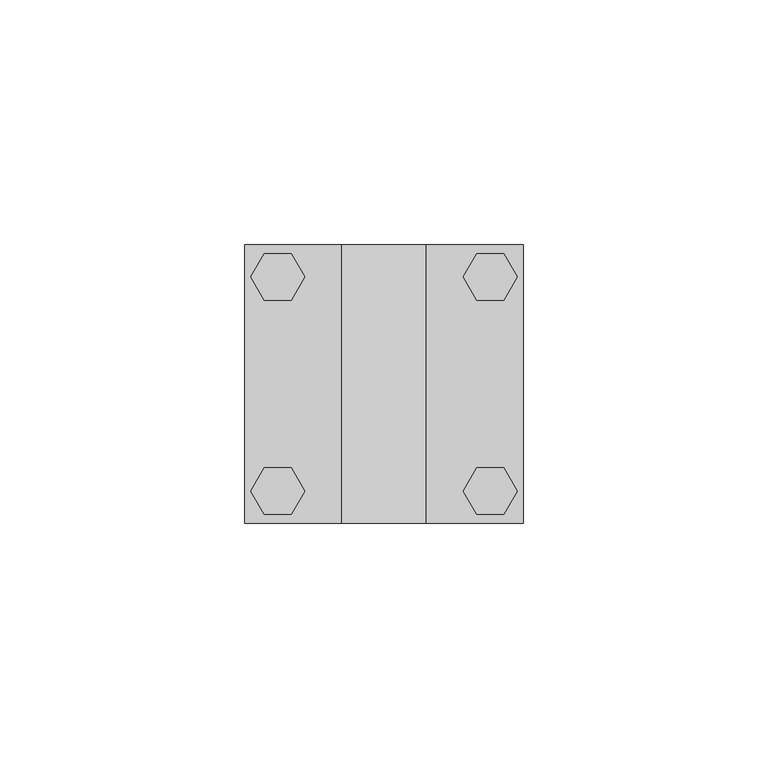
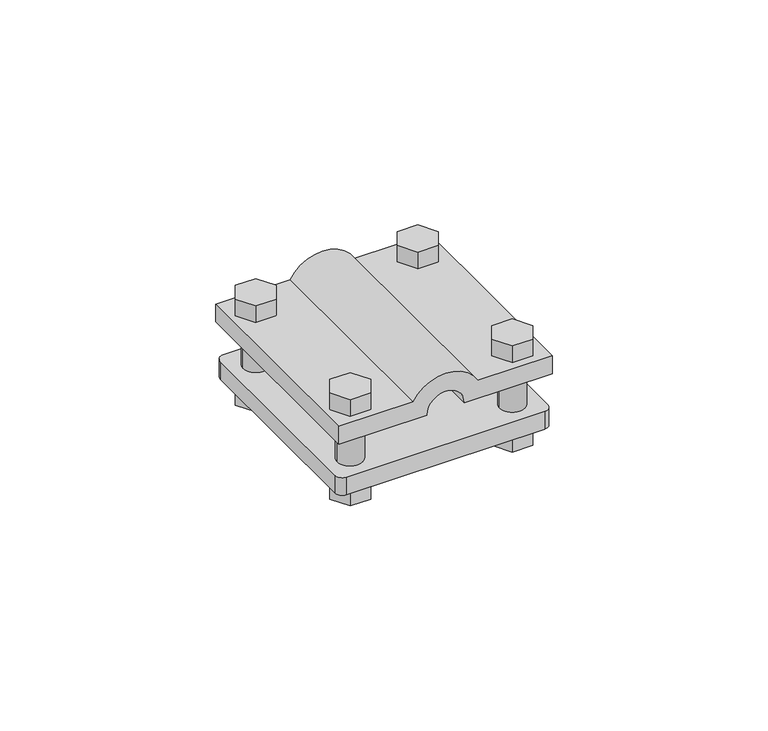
"""IFC4 building model written with IfcOpenShell, lengths in millimetres: proxy geometry, КНС_СоединительПрутокПолоса_DKC : NG3102CU_Медь_57х57 мм."""

from ifc_helpers import new_model, si_unit, point, frame, frame_2d, origin, place, context, project, spatial, polyline, circle_curve, trimmed, segment, composite_curve, outline, extrude, source, transform, mapped, element, save


def security_devices_d88ed466(model_context):
    return source(origin(), model_context, "Body", "SweptSolid", [
        extrude(outline(composite_curve([segment(polyline([(10.0, -28.5), (5.0, -28.5), (5.0, -5.0)]), True, "CONTINUOUS"), segment(trimmed(circle_curve(frame_2d((5.0, 0.0)), 5.0), [point((5.0, -5.0))], [point((5.0, 5.0))], True, "CARTESIAN"), True, "CONTINUOUS"), segment(polyline([(5.0, 5.0), (5.0, 28.5), (10.0, 28.5), (10.0, 8.660254)]), True, "CONTINUOUS"), segment(trimmed(circle_curve(frame_2d((5.0, 0.0)), 10.0), [point((10.0, 8.660254))], [point((10.0, -8.660254))], False, "CARTESIAN"), True, "CONTINUOUS"), segment(polyline([(10.0, -8.660254), (10.0, -28.5)]), True, "CONTINUOUS")], self_intersect=False)), frame((0.0, -28.5, 0.0), z_axis=(0.0, 1.0, 0.0), x_axis=(0.0, 0.0, 1.0)), (0.0, 0.0, 1.0), 57.0),
        extrude(outline(composite_curve([segment(trimmed(circle_curve(frame_2d((-21.7121057, 21.78125)), 3.4209609), [point((-25.1330666, 21.78125))], [point((-18.2911448, 21.78125))], False, "CARTESIAN"), True, "CONTINUOUS"), segment(trimmed(circle_curve(frame_2d((-21.7121057, 21.78125)), 3.4209609), [point((-18.2911448, 21.78125))], [point((-25.1330666, 21.78125))], False, "CARTESIAN"), True, "CONTINUOUS")], self_intersect=False)), frame((0.0, 0.0, -10.0), z_axis=(0.0, 0.0, 1.0), x_axis=(1.0, 0.0, 0.0)), (0.0, 0.0, 1.0), 20.0),
        extrude(outline(composite_curve([segment(trimmed(circle_curve(frame_2d((21.7121057, 21.78125)), 3.4209609), [point((18.2911448, 21.78125))], [point((25.1330666, 21.78125))], False, "CARTESIAN"), True, "CONTINUOUS"), segment(trimmed(circle_curve(frame_2d((21.7121057, 21.78125)), 3.4209609), [point((25.1330666, 21.78125))], [point((18.2911448, 21.78125))], False, "CARTESIAN"), True, "CONTINUOUS")], self_intersect=False)), frame((0.0, 0.0, -10.0), z_axis=(0.0, 0.0, 1.0), x_axis=(1.0, 0.0, 0.0)), (0.0, 0.0, 1.0), 20.0),
        extrude(outline(composite_curve([segment(trimmed(circle_curve(frame_2d((-21.7121057, -21.78125)), 3.4209609), [point((-25.1330666, -21.78125))], [point((-18.2911448, -21.78125))], False, "CARTESIAN"), True, "CONTINUOUS"), segment(trimmed(circle_curve(frame_2d((-21.7121057, -21.78125)), 3.4209609), [point((-18.2911448, -21.78125))], [point((-25.1330666, -21.78125))], False, "CARTESIAN"), True, "CONTINUOUS")], self_intersect=False)), frame((0.0, 0.0, -10.0), z_axis=(0.0, 0.0, 1.0), x_axis=(1.0, 0.0, 0.0)), (0.0, 0.0, 1.0), 20.0),
        extrude(outline(composite_curve([segment(trimmed(circle_curve(frame_2d((21.7121057, -21.78125)), 3.4209609), [point((18.2911448, -21.78125))], [point((25.1330666, -21.78125))], False, "CARTESIAN"), True, "CONTINUOUS"), segment(trimmed(circle_curve(frame_2d((21.7121057, -21.78125)), 3.4209609), [point((25.1330666, -21.78125))], [point((18.2911448, -21.78125))], False, "CARTESIAN"), True, "CONTINUOUS")], self_intersect=False)), frame((0.0, 0.0, -10.0), z_axis=(0.0, 0.0, 1.0), x_axis=(1.0, 0.0, 0.0)), (0.0, 0.0, 1.0), 20.0),
        extrude(outline(polyline([(-27.1996224, 21.8883083), (-24.455864, 26.6406371), (-18.9683473, 26.6406371), (-16.224589, 21.8883083), (-18.9683473, 17.1359794), (-24.455864, 17.1359794), (-27.1996224, 21.8883083)])), frame((0.0, 0.0, -15.0), z_axis=(0.0, 0.0, 1.0), x_axis=(1.0, 0.0, 0.0)), (0.0, 0.0, 1.0), 5.0),
        extrude(outline(polyline([(27.1996224, 21.8883083), (24.455864, 17.1359794), (18.9683473, 17.1359794), (16.224589, 21.8883083), (18.9683473, 26.6406371), (24.455864, 26.6406371), (27.1996224, 21.8883083)])), frame((0.0, 0.0, -15.0), z_axis=(0.0, 0.0, 1.0), x_axis=(1.0, 0.0, 0.0)), (0.0, 0.0, 1.0), 5.0),
        extrude(outline(polyline([(-27.1996224, -21.8883083), (-24.455864, -17.1359794), (-18.9683473, -17.1359794), (-16.224589, -21.8883083), (-18.9683473, -26.6406371), (-24.455864, -26.6406371), (-27.1996224, -21.8883083)])), frame((0.0, 0.0, -15.0), z_axis=(0.0, 0.0, 1.0), x_axis=(1.0, 0.0, 0.0)), (0.0, 0.0, 1.0), 5.0),
        extrude(outline(polyline([(27.1996224, -21.8883083), (24.455864, -26.6406371), (18.9683473, -26.6406371), (16.224589, -21.8883083), (18.9683473, -17.1359794), (24.455864, -17.1359794), (27.1996224, -21.8883083)])), frame((0.0, 0.0, -15.0), z_axis=(0.0, 0.0, 1.0), x_axis=(1.0, 0.0, 0.0)), (0.0, 0.0, 1.0), 5.0),
        extrude(outline(polyline([(-27.1996224, 21.8883083), (-24.455864, 26.6406371), (-18.9683473, 26.6406371), (-16.224589, 21.8883083), (-18.9683473, 17.1359794), (-24.455864, 17.1359794), (-27.1996224, 21.8883083)])), frame((0.0, 0.0, 10.0), z_axis=(0.0, 0.0, 1.0), x_axis=(1.0, 0.0, 0.0)), (0.0, 0.0, 1.0), 5.0),
        extrude(outline(polyline([(27.1996224, 21.8883083), (24.455864, 17.1359794), (18.9683473, 17.1359794), (16.224589, 21.8883083), (18.9683473, 26.6406371), (24.455864, 26.6406371), (27.1996224, 21.8883083)])), frame((0.0, 0.0, 10.0), z_axis=(0.0, 0.0, 1.0), x_axis=(1.0, 0.0, 0.0)), (0.0, 0.0, 1.0), 5.0),
        extrude(outline(polyline([(-27.1996224, -21.8883083), (-24.455864, -17.1359794), (-18.9683473, -17.1359794), (-16.224589, -21.8883083), (-18.9683473, -26.6406371), (-24.455864, -26.6406371), (-27.1996224, -21.8883083)])), frame((0.0, 0.0, 10.0), z_axis=(0.0, 0.0, 1.0), x_axis=(1.0, 0.0, 0.0)), (0.0, 0.0, 1.0), 5.0),
        extrude(outline(polyline([(27.1996224, -21.8883083), (24.455864, -26.6406371), (18.9683473, -26.6406371), (16.224589, -21.8883083), (18.9683473, -17.1359794), (24.455864, -17.1359794), (27.1996224, -21.8883083)])), frame((0.0, 0.0, 10.0), z_axis=(0.0, 0.0, 1.0), x_axis=(1.0, 0.0, 0.0)), (0.0, 0.0, 1.0), 5.0),
        extrude(outline(composite_curve([segment(trimmed(circle_curve(frame_2d((26.5, 26.5)), 2.0), [point((26.5, 28.5))], [point((28.5, 26.5))], False, "CARTESIAN"), True, "CONTINUOUS"), segment(polyline([(28.5, 26.5), (28.5, -26.5)]), True, "CONTINUOUS"), segment(trimmed(circle_curve(frame_2d((26.5, -26.5)), 2.0), [point((28.5, -26.5))], [point((26.5, -28.5))], False, "CARTESIAN"), True, "CONTINUOUS"), segment(polyline([(26.5, -28.5), (-26.5, -28.5)]), True, "CONTINUOUS"), segment(trimmed(circle_curve(frame_2d((-26.5, -26.5)), 2.0), [point((-26.5, -28.5))], [point((-28.5, -26.5))], False, "CARTESIAN"), True, "CONTINUOUS"), segment(polyline([(-28.5, -26.5), (-28.5, 26.5)]), True, "CONTINUOUS"), segment(trimmed(circle_curve(frame_2d((-26.5, 26.5)), 2.0), [point((-28.5, 26.5))], [point((-26.5, 28.5))], False, "CARTESIAN"), True, "CONTINUOUS"), segment(polyline([(-26.5, 28.5), (26.5, 28.5)]), True, "CONTINUOUS")], self_intersect=False)), frame((0.0, 0.0, -10.0), z_axis=(0.0, 0.0, 1.0), x_axis=(1.0, 0.0, 0.0)), (0.0, 0.0, 1.0), 5.0),
    ])


if __name__ == "__main__":
    model = new_model("IFC4")
    model_context = context("Model", 3, world=origin())
    ifc_project = project(units=[si_unit("LENGTHUNIT", "METRE", prefix="MILLI")], contexts=[model_context])
    site = spatial("IfcSite", under=ifc_project)
    building = spatial("IfcBuilding", under=site)
    placement = place(None, origin())
    security_devices_shape = security_devices_d88ed466(model_context)
    element("IfcBuildingElementProxy", 1, Name="КНС_СоединительПрутокПолоса_DKC : NG3102CU_Медь_57х57 мм", ObjectType="КНС_СоединительПрутокПолоса_DKC : NG3102CU_Медь_57х57 мм", at=placement, inside=building, context=model_context, shape_type="MappedRepresentation", body=[
        mapped(security_devices_shape, transform((0.0, 0.0, 0.0), x_axis=(1.0, 0.0, 0.0), y_axis=(0.0, 1.0, 0.0), z_axis=(0.0, 0.0, 1.0))),
    ])
    save(model, "model.ifc")
